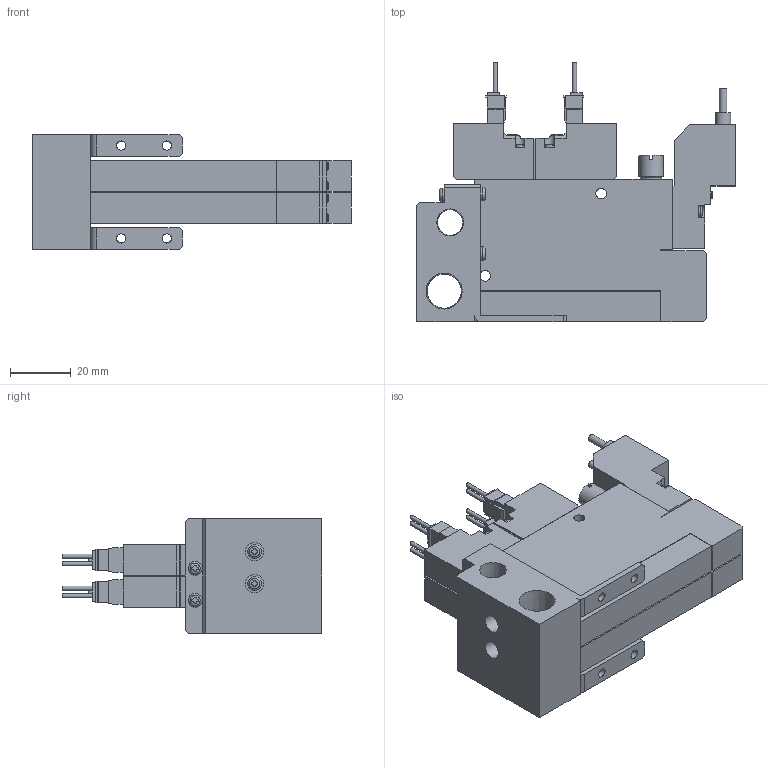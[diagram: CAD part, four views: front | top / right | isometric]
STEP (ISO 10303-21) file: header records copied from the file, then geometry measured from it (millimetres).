
FILE_DESCRIPTION(('STEP AP203'),'1');
FILE_NAME('V8C5SC202_3D.stp','2024-09-04T09:30:43',(' '),(' '),'Spatial InterOp 3D',' ',' ');
FILE_SCHEMA(('CONFIG_CONTROL_DESIGN'));
Length unit declared in the file: millimetre
Products named in the file (5): BSC1M※※V8C5SC202; Solenoid valve S; Pressure Sensor V8; Unit-C; BaseMC20R
Assembly tree (7 placements, depth 2):
  BSC1M※※V8C5SC202
    Solenoid valve S  x2
    Pressure Sensor V8  x2
    Unit-C  x2
    BaseMC20R
Bounding box: 104.5 x 85.05 x 37.5 mm (x, y, z)
Volume: 122261.5 mm3; surface area: 43748.7 mm2
Topology: 7 solids, 7 shells, 857 faces, 2297 edges, 1518 vertices
Faces by surface type: plane 647, cylinder 160, cone 22, torus 16, sphere 12
Full cylindrical faces by diameter (mm): 1.4 x8, 2.5 x10, 3 x12, 3.5 x12, 4 x2, 4.134 x4, 4.5 x8, 5 x2, 5.5 x2, 6 x2, 7 x4, 8 x2, 8.422 x1, 11.233 x1
Entity records: 15974 total; most frequent: CARTESIAN_POINT 3414, ORIENTED_EDGE 2474, DIRECTION 2472, EDGE_CURVE 1237, LINE 894, VECTOR 894, VERTEX_POINT 863, AXIS2_PLACEMENT_3D 789
